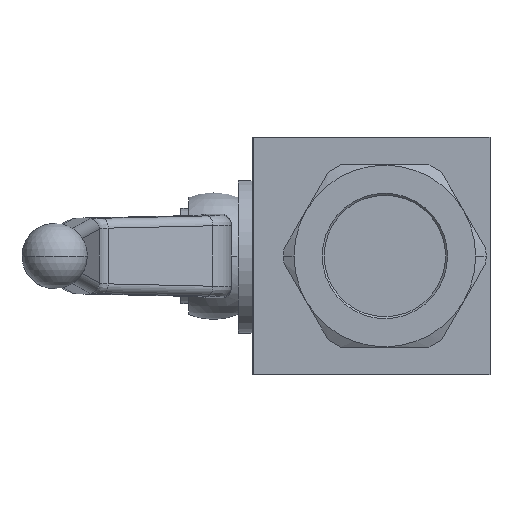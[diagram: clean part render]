
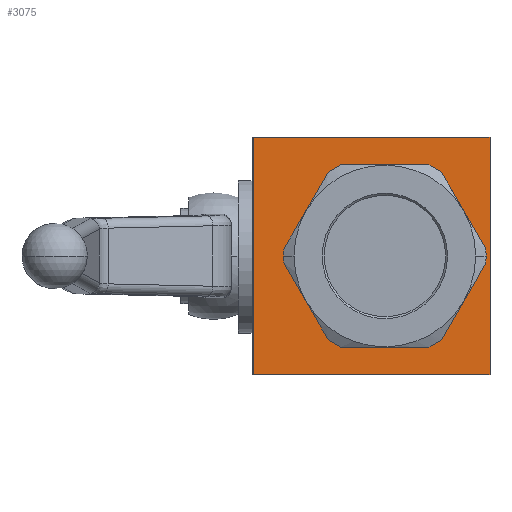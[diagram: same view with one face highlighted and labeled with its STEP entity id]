
A CAD part, left-side view. The second image highlights one B-rep face of the part: STEP entity #3075.
In plain terms, the highlighted planar face has unit normal (-1, 0, 0).
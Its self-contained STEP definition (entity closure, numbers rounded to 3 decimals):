
#607 = AXIS2_PLACEMENT_3D ( 'NONE', #3407, #10146, #4380 ) ;
#1133 = EDGE_CURVE ( 'NONE', #1561, #6182, #6277, .T. ) ;
#1268 = CARTESIAN_POINT ( 'NONE',  ( -33.5, -3.5, 0. ) ) ;
#1510 = VECTOR ( 'NONE', #10428, 1000. ) ;
#1561 = VERTEX_POINT ( 'NONE', #9300 ) ;
#1586 = ORIENTED_EDGE ( 'NONE', *, *, #8398, .F. ) ;
#2031 = DIRECTION ( 'NONE',  ( 1., 0., 0. ) ) ;
#2228 = DIRECTION ( 'NONE',  ( 0., 0., 1. ) ) ;
#2383 = ORIENTED_EDGE ( 'NONE', *, *, #7608, .F. ) ;
#2396 = CIRCLE ( 'NONE', #607, 22.9 ) ;
#2575 = VERTEX_POINT ( 'NONE', #11125 ) ;
#2823 = CARTESIAN_POINT ( 'NONE',  ( -33.5, -30., 30. ) ) ;
#3075 = ADVANCED_FACE ( 'NONE', ( #7184, #9423 ), #3903, .F. ) ;
#3407 = CARTESIAN_POINT ( 'NONE',  ( -33.5, -3.5, 0. ) ) ;
#3418 = VECTOR ( 'NONE', #11449, 1000. ) ;
#3451 = VERTEX_POINT ( 'NONE', #9169 ) ;
#3903 = PLANE ( 'NONE',  #7607 ) ;
#3944 = CIRCLE ( 'NONE', #6070, 22.9 ) ;
#3974 = ORIENTED_EDGE ( 'NONE', *, *, #5464, .T. ) ;
#3987 = EDGE_LOOP ( 'NONE', ( #7088, #4758, #3974, #5015 ) ) ;
#4380 = DIRECTION ( 'NONE',  ( 0., 0., 1. ) ) ;
#4661 = CARTESIAN_POINT ( 'NONE',  ( -33.5, 30., -30. ) ) ;
#4758 = ORIENTED_EDGE ( 'NONE', *, *, #11482, .T. ) ;
#4831 = VECTOR ( 'NONE', #7738, 1000. ) ;
#5015 = ORIENTED_EDGE ( 'NONE', *, *, #1133, .F. ) ;
#5390 = CARTESIAN_POINT ( 'NONE',  ( -33.5, 29.5, 30. ) ) ;
#5432 = DIRECTION ( 'NONE',  ( 0., -1., 0. ) ) ;
#5464 = EDGE_CURVE ( 'NONE', #10846, #6182, #11414, .T. ) ;
#5743 = CARTESIAN_POINT ( 'NONE',  ( -33.5, 29.5, 30. ) ) ;
#5825 = EDGE_CURVE ( 'NONE', #11308, #1561, #10676, .T. ) ;
#6070 = AXIS2_PLACEMENT_3D ( 'NONE', #1268, #7975, #2228 ) ;
#6106 = CARTESIAN_POINT ( 'NONE',  ( -33.5, -30., -30. ) ) ;
#6182 = VERTEX_POINT ( 'NONE', #6106 ) ;
#6277 = LINE ( 'NONE', #2823, #3418 ) ;
#7088 = ORIENTED_EDGE ( 'NONE', *, *, #5825, .F. ) ;
#7184 = FACE_OUTER_BOUND ( 'NONE', #3987, .T. ) ;
#7607 = AXIS2_PLACEMENT_3D ( 'NONE', #7776, #2031, #8759 ) ;
#7608 = EDGE_CURVE ( 'NONE', #2575, #3451, #2396, .T. ) ;
#7738 = DIRECTION ( 'NONE',  ( 0., 0., -1. ) ) ;
#7776 = CARTESIAN_POINT ( 'NONE',  ( -33.5, 30., 30. ) ) ;
#7975 = DIRECTION ( 'NONE',  ( -1., 0., 0. ) ) ;
#8132 = VECTOR ( 'NONE', #5432, 1000. ) ;
#8398 = EDGE_CURVE ( 'NONE', #3451, #2575, #3944, .T. ) ;
#8423 = CARTESIAN_POINT ( 'NONE',  ( -33.5, 29.5, -30. ) ) ;
#8759 = DIRECTION ( 'NONE',  ( 0., 1., 0. ) ) ;
#9169 = CARTESIAN_POINT ( 'NONE',  ( -33.5, -3.5, -22.9 ) ) ;
#9300 = CARTESIAN_POINT ( 'NONE',  ( -33.5, -30., 30. ) ) ;
#9423 = FACE_BOUND ( 'NONE', #9449, .T. ) ;
#9449 = EDGE_LOOP ( 'NONE', ( #2383, #1586 ) ) ;
#9962 = LINE ( 'NONE', #5743, #4831 ) ;
#10146 = DIRECTION ( 'NONE',  ( -1., 0., 0. ) ) ;
#10428 = DIRECTION ( 'NONE',  ( 0., -1., 0. ) ) ;
#10676 = LINE ( 'NONE', #11187, #8132 ) ;
#10846 = VERTEX_POINT ( 'NONE', #8423 ) ;
#11125 = CARTESIAN_POINT ( 'NONE',  ( -33.5, -3.5, 22.9 ) ) ;
#11187 = CARTESIAN_POINT ( 'NONE',  ( -33.5, 30., 30. ) ) ;
#11308 = VERTEX_POINT ( 'NONE', #5390 ) ;
#11414 = LINE ( 'NONE', #4661, #1510 ) ;
#11449 = DIRECTION ( 'NONE',  ( 0., 0., -1. ) ) ;
#11482 = EDGE_CURVE ( 'NONE', #11308, #10846, #9962, .T. ) ;
